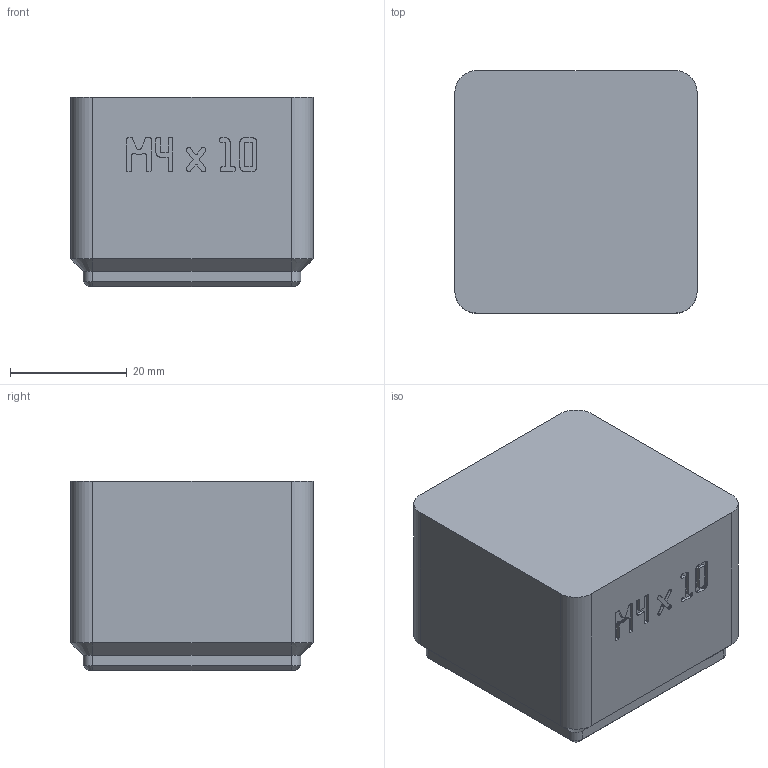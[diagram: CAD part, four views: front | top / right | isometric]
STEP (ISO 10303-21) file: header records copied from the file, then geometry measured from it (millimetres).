
FILE_DESCRIPTION(('Open CASCADE Model'),'2;1');
FILE_NAME('Open CASCADE Shape Model','2026-11-03T16:22:51',('Author'),( 'Open CASCADE'),'Open CASCADE STEP processor 8.0','build123d', 'Unknown');
FILE_SCHEMA(('AUTOMOTIVE_DESIGN { 1 0 10303 214 1 1 1 1 }'));
Products named in the file (1): COMPOUND
Bounding box: 41.5 x 41.5 x 32.4 mm (x, y, z)
Volume: 15957.3 mm3; surface area: 15731.8 mm2
Topology: 1 solids, 2 shells, 995 faces, 2894 edges, 1916 vertices
Faces by surface type: plane 959, cylinder 16, cone 12, bspline 8
Entity records: 69706 total; most frequent: CARTESIAN_POINT 11858, DIRECTION 10558, LINE 8478, VECTOR 8478, ORIENTED_EDGE 5788, PCURVE 5788, DEFINITIONAL_REPRESENTATION 5788, EDGE_CURVE 2894
